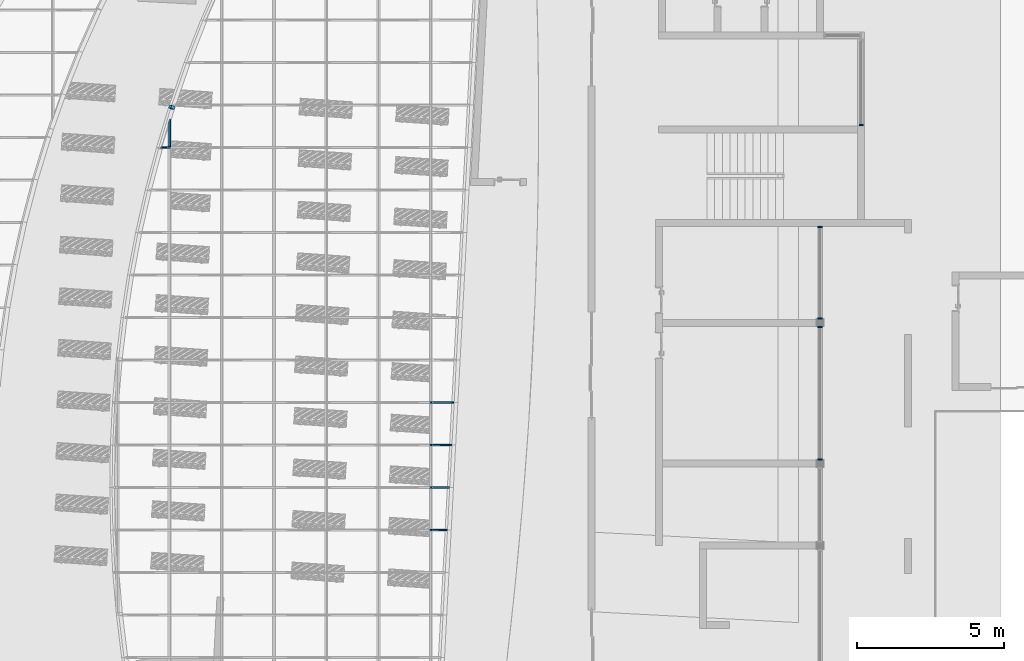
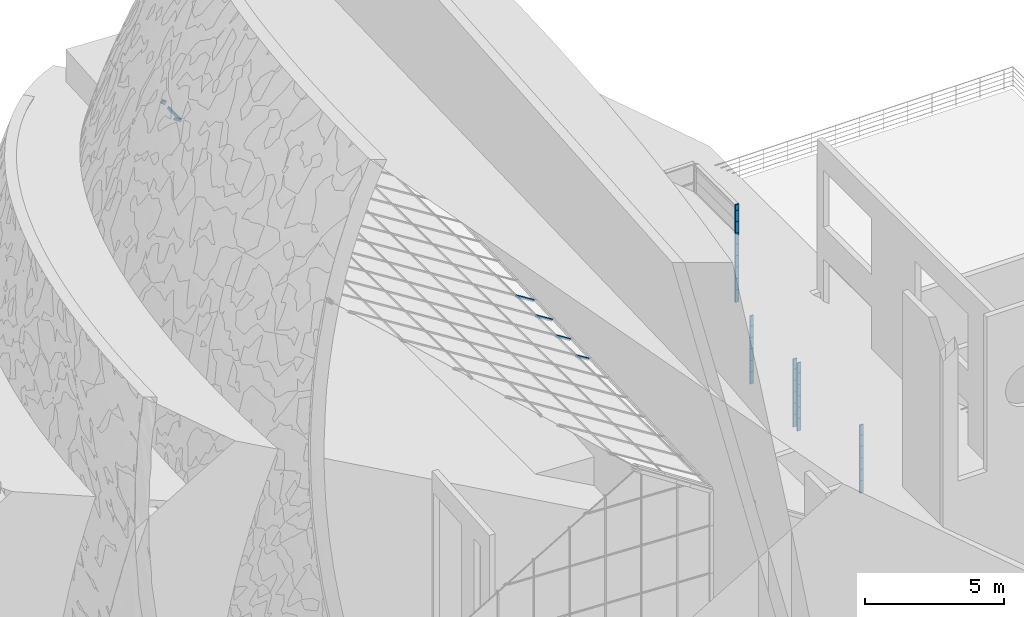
# One storey, part 29 of 82: 40 members, 4 elements without a shape of their own.
"""IFC2X3 building model written with IfcOpenShell, lengths in millimetres."""

from ifc_helpers import new_model, entity, si_unit, converted_unit, derived_unit, direction, frame, frame_2d, origin, origin_2d_with_axis, place, context, subcontext, project, spatial, polyline, rectangle, extrude, clip, halfspace, bounded_halfspace, source, transform, mapped, material, type_object, type_shapes, element, aggregate, save


model = new_model("IFC2X3")

# Units and contexts
model_context = context("Model", 3, precision=0.01, world=origin(), true_north=direction((6.12303176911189e-17, 1.0)))
body_context = subcontext(model_context, "Body", "Model", "MODEL_VIEW")
ifc_project = project(units=[si_unit("LENGTHUNIT", "METRE", prefix="MILLI"), si_unit("AREAUNIT", "SQUARE_METRE"), si_unit("VOLUMEUNIT", "CUBIC_METRE"), converted_unit("PLANEANGLEUNIT", "DEGREE", entity("IfcRatioMeasure", 0.0174532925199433), si_unit("PLANEANGLEUNIT", "RADIAN"), dimensions=[0, 0, 0, 0, 0, 0, 0]), si_unit("MASSUNIT", "GRAM", prefix="KILO"), derived_unit("MASSDENSITYUNIT", [(si_unit("MASSUNIT", "GRAM", prefix="KILO"), 1), (si_unit("LENGTHUNIT", "METRE"), -3)]), si_unit("TIMEUNIT", "SECOND"), si_unit("FREQUENCYUNIT", "HERTZ"), si_unit("THERMODYNAMICTEMPERATUREUNIT", "DEGREE_CELSIUS"), derived_unit("THERMALTRANSMITTANCEUNIT", [(si_unit("MASSUNIT", "GRAM", prefix="KILO"), 1), (si_unit("THERMODYNAMICTEMPERATUREUNIT", "KELVIN"), -1), (si_unit("TIMEUNIT", "SECOND"), -3)]), derived_unit("VOLUMETRICFLOWRATEUNIT", [(si_unit("LENGTHUNIT", "METRE"), 3), (si_unit("TIMEUNIT", "SECOND"), -1)]), si_unit("ELECTRICCURRENTUNIT", "AMPERE"), si_unit("ELECTRICVOLTAGEUNIT", "VOLT"), si_unit("POWERUNIT", "WATT"), si_unit("FORCEUNIT", "NEWTON", prefix="KILO"), si_unit("ILLUMINANCEUNIT", "LUX"), si_unit("LUMINOUSFLUXUNIT", "LUMEN"), si_unit("LUMINOUSINTENSITYUNIT", "CANDELA"), derived_unit("USERDEFINED", [(si_unit("MASSUNIT", "GRAM", prefix="KILO"), -1), (si_unit("LENGTHUNIT", "METRE"), -2), (si_unit("TIMEUNIT", "SECOND"), 3), (si_unit("LUMINOUSFLUXUNIT", "LUMEN"), 1)]), derived_unit("LINEARVELOCITYUNIT", [(si_unit("LENGTHUNIT", "METRE"), 1), (si_unit("TIMEUNIT", "SECOND"), -1)]), si_unit("PRESSUREUNIT", "PASCAL"), derived_unit("USERDEFINED", [(si_unit("LENGTHUNIT", "METRE"), -2), (si_unit("MASSUNIT", "GRAM", prefix="KILO"), 1), (si_unit("TIMEUNIT", "SECOND"), -2)])], contexts=[model_context])

# Site, building, storey
site_placement = place(None, origin())
site = spatial("IfcSite", under=ifc_project, at=site_placement, Name="表面", CompositionType="ELEMENT")
building_placement = place(site_placement, origin())
building = spatial("IfcBuilding", under=site, at=building_placement, CompositionType="ELEMENT")
storey_placement = place(building_placement, origin())
storey = spatial("IfcBuildingStorey", under=building, at=storey_placement, Name="1F", CompositionType="ELEMENT", Elevation=0.0)

# Curtain wall, member
curtain_wall_type_1 = type_object("IfcCurtainWallType", Name="幕墙:幕墙 1", PredefinedType="NOTDEFINED")
curtain_wall_1_placement = place(storey_placement, origin())
curtain_wall_1 = element("IfcCurtainWall", 1, at=curtain_wall_1_placement, inside=storey, type_object=curtain_wall_type_1, Name="幕墙:幕墙 1", ObjectType="幕墙:幕墙 1")
ifc_material_1 = material(Name="金属 - 铝")
member_type_1 = type_object("IfcMemberType", Name="50 x 150mm", PredefinedType="MEMBER")
shared_shape_1 = source(origin(), body_context, "Body", "SweptSolid", [
    extrude(rectangle(XDim=150.0, YDim=50.0, at=origin_2d_with_axis()), frame((-25.0, 0.0, -550.0), z_axis=(0.0, 0.0, 1.0), x_axis=(0.0, -1.0, 0.0)), (0.0, 0.0, 1.0), 550.0),
])
type_shapes(member_type_1, [shared_shape_1])
member_1_placement = place(storey_placement, frame((-6630.24991264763, -11996.868426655, 0.0), z_axis=(0.0, 0.0, -1.0), x_axis=(0.0, -1.0, 0.0)))
member_1 = element("IfcMember", 2, at=member_1_placement, type_object=member_type_1, material=ifc_material_1, Name="矩形竖梃:50 x 150mm", ObjectType="50 x 150mm", context=body_context, shape_type="MappedRepresentation", body=[
    mapped(shared_shape_1, transform((0.0, 0.0, 0.0), scale=1.0)),
])

curtain_wall_2_placement = place(storey_placement, origin())
curtain_wall_2 = element("IfcCurtainWall", 3, at=curtain_wall_2_placement, inside=storey, type_object=curtain_wall_type_1, Name="幕墙:幕墙 1", ObjectType="幕墙:幕墙 1")
member_2_placement = place(storey_placement, frame((-6630.24991264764, -16796.868426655, 0.0), z_axis=(0.0, 0.0, -1.0), x_axis=(0.0, -1.0, 0.0)))
member_2 = element("IfcMember", 4, at=member_2_placement, type_object=member_type_1, material=ifc_material_1, Name="矩形竖梃:50 x 150mm", ObjectType="50 x 150mm", context=body_context, shape_type="MappedRepresentation", body=[
    mapped(shared_shape_1, transform((0.0, 0.0, 0.0), scale=1.0)),
])

curtain_wall_3_placement = place(storey_placement, origin())
curtain_wall_3 = element("IfcCurtainWall", 5, at=curtain_wall_3_placement, inside=storey, type_object=curtain_wall_type_1, Name="幕墙:幕墙 1", ObjectType="幕墙:幕墙 1")
member_3_placement = place(storey_placement, frame((-5230.24991264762, -5396.868426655, 1000.0), z_axis=(0.0, 0.0, -1.0), x_axis=(0.0, -1.0, 0.0)))
member_3 = element("IfcMember", 6, at=member_3_placement, type_object=member_type_1, material=ifc_material_1, Name="矩形竖梃:50 x 150mm", ObjectType="50 x 150mm", context=body_context, shape_type="MappedRepresentation", body=[
    mapped(shared_shape_1, transform((0.0, 0.0, 0.0), scale=1.0)),
])

# Member
member_type_2 = type_object("IfcMemberType", Name="50 x 150mm", PredefinedType="MEMBER")
shared_shape_2 = source(origin(), body_context, "Body", "SweptSolid", [
    extrude(rectangle(XDim=150.0, YDim=50.0, at=origin_2d_with_axis()), frame((-25.0, 0.0, -450.0), z_axis=(0.0, 0.0, 1.0), x_axis=(0.0, -1.0, 0.0)), (0.0, 0.0, 1.0), 450.000000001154),
])
type_shapes(member_type_2, [shared_shape_2])
member_4_placement = place(storey_placement, frame((-6630.24991264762, -8827.84591297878, 3000.0), z_axis=(0.0, 0.0, 1.0), x_axis=(0.0, 1.0, 0.0)))
member_4 = element("IfcMember", 7, at=member_4_placement, type_object=member_type_2, material=ifc_material_1, Name="矩形竖梃:50 x 150mm", ObjectType="50 x 150mm", context=body_context, shape_type="MappedRepresentation", body=[
    mapped(shared_shape_2, transform((0.0, 0.0, 0.0), scale=1.0)),
])

member_5_placement = place(storey_placement, frame((-6630.24991264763, -12236.868426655, 3000.0), z_axis=(0.0, 0.0, 1.0), x_axis=(0.0, 1.0, 0.0)))
member_5 = element("IfcMember", 8, at=member_5_placement, type_object=member_type_2, material=ifc_material_1, Name="矩形竖梃:50 x 150mm", ObjectType="50 x 150mm", context=body_context, shape_type="MappedRepresentation", body=[
    mapped(shared_shape_2, transform((0.0, 0.0, 0.0), scale=1.0)),
])

member_type_3 = type_object("IfcMemberType", Name="50 x 150mm", PredefinedType="MEMBER")
shared_shape_3 = source(origin(), body_context, "Body", "SweptSolid", [
    extrude(rectangle(XDim=150.0, YDim=50.0, at=origin_2d_with_axis()), frame((-25.0, 0.0, -500.0), z_axis=(0.0, 0.0, 1.0), x_axis=(0.0, -1.0, 0.0)), (0.0, 0.0, 1.0), 500.0),
])
type_shapes(member_type_3, [shared_shape_3])
member_6_placement = place(storey_placement, frame((-6630.24991264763, -11996.868426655, 550.0), z_axis=(0.0, 0.0, -1.0), x_axis=(0.0, -1.0, 0.0)))
member_6 = element("IfcMember", 9, at=member_6_placement, type_object=member_type_3, material=ifc_material_1, Name="矩形竖梃:50 x 150mm", ObjectType="50 x 150mm", context=body_context, shape_type="MappedRepresentation", body=[
    mapped(shared_shape_3, transform((0.0, 0.0, 0.0), scale=1.0)),
])

member_7_placement = place(storey_placement, frame((-6630.24991264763, -11996.868426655, 1050.0), z_axis=(0.0, 0.0, -1.0), x_axis=(0.0, -1.0, 0.0)))
member_7 = element("IfcMember", 10, at=member_7_placement, type_object=member_type_3, material=ifc_material_1, Name="矩形竖梃:50 x 150mm", ObjectType="50 x 150mm", context=body_context, shape_type="MappedRepresentation", body=[
    mapped(shared_shape_3, transform((0.0, 0.0, 0.0), scale=1.0)),
])

member_8_placement = place(storey_placement, frame((-6630.24991264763, -11996.868426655, 1550.0), z_axis=(0.0, 0.0, -1.0), x_axis=(0.0, -1.0, 0.0)))
member_8 = element("IfcMember", 11, at=member_8_placement, type_object=member_type_3, material=ifc_material_1, Name="矩形竖梃:50 x 150mm", ObjectType="50 x 150mm", context=body_context, shape_type="MappedRepresentation", body=[
    mapped(shared_shape_3, transform((0.0, 0.0, 0.0), scale=1.0)),
])

member_9_placement = place(storey_placement, frame((-6630.24991264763, -11996.868426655, 2050.0), z_axis=(0.0, 0.0, -1.0), x_axis=(0.0, -1.0, 0.0)))
member_9 = element("IfcMember", 12, at=member_9_placement, type_object=member_type_3, material=ifc_material_1, Name="矩形竖梃:50 x 150mm", ObjectType="50 x 150mm", context=body_context, shape_type="MappedRepresentation", body=[
    mapped(shared_shape_3, transform((0.0, 0.0, 0.0), scale=1.0)),
])

member_10_placement = place(storey_placement, frame((-6630.24991264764, -16796.868426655, 550.0), z_axis=(0.0, 0.0, -1.0), x_axis=(0.0, -1.0, 0.0)))
member_10 = element("IfcMember", 13, at=member_10_placement, type_object=member_type_3, material=ifc_material_1, Name="矩形竖梃:50 x 150mm", ObjectType="50 x 150mm", context=body_context, shape_type="MappedRepresentation", body=[
    mapped(shared_shape_3, transform((0.0, 0.0, 0.0), scale=1.0)),
])

member_11_placement = place(storey_placement, frame((-6630.24991264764, -16796.868426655, 1050.0), z_axis=(0.0, 0.0, -1.0), x_axis=(0.0, -1.0, 0.0)))
member_11 = element("IfcMember", 14, at=member_11_placement, type_object=member_type_3, material=ifc_material_1, Name="矩形竖梃:50 x 150mm", ObjectType="50 x 150mm", context=body_context, shape_type="MappedRepresentation", body=[
    mapped(shared_shape_3, transform((0.0, 0.0, 0.0), scale=1.0)),
])

member_12_placement = place(storey_placement, frame((-6630.24991264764, -16796.868426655, 1550.0), z_axis=(0.0, 0.0, -1.0), x_axis=(0.0, -1.0, 0.0)))
member_12 = element("IfcMember", 15, at=member_12_placement, type_object=member_type_3, material=ifc_material_1, Name="矩形竖梃:50 x 150mm", ObjectType="50 x 150mm", context=body_context, shape_type="MappedRepresentation", body=[
    mapped(shared_shape_3, transform((0.0, 0.0, 0.0), scale=1.0)),
])

member_13_placement = place(storey_placement, frame((-6630.24991264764, -16796.868426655, 2050.0), z_axis=(0.0, 0.0, -1.0), x_axis=(0.0, -1.0, 0.0)))
member_13 = element("IfcMember", 16, at=member_13_placement, type_object=member_type_3, material=ifc_material_1, Name="矩形竖梃:50 x 150mm", ObjectType="50 x 150mm", context=body_context, shape_type="MappedRepresentation", body=[
    mapped(shared_shape_3, transform((0.0, 0.0, 0.0), scale=1.0)),
])

member_14_placement = place(storey_placement, frame((-5230.24991264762, -5396.868426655, 1550.0), z_axis=(0.0, 0.0, -1.0), x_axis=(0.0, -1.0, 0.0)))
member_14 = element("IfcMember", 17, at=member_14_placement, type_object=member_type_3, material=ifc_material_1, Name="矩形竖梃:50 x 150mm", ObjectType="50 x 150mm", context=body_context, shape_type="MappedRepresentation", body=[
    mapped(shared_shape_3, transform((0.0, 0.0, 0.0), scale=1.0)),
])

member_15_placement = place(storey_placement, frame((-5230.24991264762, -5396.868426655, 2050.0), z_axis=(0.0, 0.0, -1.0), x_axis=(0.0, -1.0, 0.0)))
member_15 = element("IfcMember", 18, at=member_15_placement, type_object=member_type_3, material=ifc_material_1, Name="矩形竖梃:50 x 150mm", ObjectType="50 x 150mm", context=body_context, shape_type="MappedRepresentation", body=[
    mapped(shared_shape_3, transform((0.0, 0.0, 0.0), scale=1.0)),
])

member_16_placement = place(storey_placement, frame((-5230.24991264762, -5396.868426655, 2550.0), z_axis=(0.0, 0.0, -1.0), x_axis=(0.0, -1.0, 0.0)))
member_16 = element("IfcMember", 19, at=member_16_placement, type_object=member_type_3, material=ifc_material_1, Name="矩形竖梃:50 x 150mm", ObjectType="50 x 150mm", context=body_context, shape_type="MappedRepresentation", body=[
    mapped(shared_shape_3, transform((0.0, 0.0, 0.0), scale=1.0)),
])

member_17_placement = place(storey_placement, frame((-5230.24991264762, -5396.868426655, 3050.0), z_axis=(0.0, 0.0, -1.0), x_axis=(0.0, -1.0, 0.0)))
member_17 = element("IfcMember", 20, at=member_17_placement, type_object=member_type_3, material=ifc_material_1, Name="矩形竖梃:50 x 150mm", ObjectType="50 x 150mm", context=body_context, shape_type="MappedRepresentation", body=[
    mapped(shared_shape_3, transform((0.0, 0.0, 0.0), scale=1.0)),
])

member_18_placement = place(storey_placement, frame((-5230.24991264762, -5396.868426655, 3550.0), z_axis=(0.0, 0.0, -1.0), x_axis=(0.0, -1.0, 0.0)))
member_18 = element("IfcMember", 21, at=member_18_placement, type_object=member_type_3, material=ifc_material_1, Name="矩形竖梃:50 x 150mm", ObjectType="50 x 150mm", context=body_context, shape_type="MappedRepresentation", body=[
    mapped(shared_shape_3, transform((0.0, 0.0, 0.0), scale=1.0)),
])

member_19_placement = place(storey_placement, frame((-5230.24991264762, -5396.868426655, 4050.0), z_axis=(0.0, 0.0, -1.0), x_axis=(0.0, -1.0, 0.0)))
member_19 = element("IfcMember", 22, at=member_19_placement, type_object=member_type_3, material=ifc_material_1, Name="矩形竖梃:50 x 150mm", ObjectType="50 x 150mm", context=body_context, shape_type="MappedRepresentation", body=[
    mapped(shared_shape_3, transform((0.0, 0.0, 0.0), scale=1.0)),
])

member_20_placement = place(storey_placement, frame((-5230.24991264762, -5396.868426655, 4550.0), z_axis=(0.0, 0.0, -1.0), x_axis=(0.0, -1.0, 0.0)))
member_20 = element("IfcMember", 23, at=member_20_placement, type_object=member_type_3, material=ifc_material_1, Name="矩形竖梃:50 x 150mm", ObjectType="50 x 150mm", context=body_context, shape_type="MappedRepresentation", body=[
    mapped(shared_shape_3, transform((0.0, 0.0, 0.0), scale=1.0)),
])

member_type_4 = type_object("IfcMemberType", Name="50 x 150mm", PredefinedType="MEMBER")
shared_shape_4 = source(origin(), body_context, "Body", "SweptSolid", [
    extrude(rectangle(XDim=150.0, YDim=50.0, at=origin_2d_with_axis()), frame((-25.0, 0.0, -550.0), z_axis=(0.0, 0.0, 1.0), x_axis=(0.0, -1.0, 0.0)), (0.0, 0.0, 1.0), 550.0),
])
type_shapes(member_type_4, [shared_shape_4])
member_21_placement = place(storey_placement, frame((-6630.24991264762, -8827.84591297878, 550.0), z_axis=(0.0, 0.0, 1.0), x_axis=(0.0, 1.0, 0.0)))
member_21 = element("IfcMember", 24, at=member_21_placement, type_object=member_type_4, material=ifc_material_1, Name="矩形竖梃:50 x 150mm", ObjectType="50 x 150mm", context=body_context, shape_type="MappedRepresentation", body=[
    mapped(shared_shape_4, transform((0.0, 0.0, 0.0), scale=1.0)),
])

member_22_placement = place(storey_placement, frame((-6630.24991264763, -12236.868426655, 550.0), z_axis=(0.0, 0.0, 1.0), x_axis=(0.0, 1.0, 0.0)))
member_22 = element("IfcMember", 25, at=member_22_placement, type_object=member_type_4, material=ifc_material_1, Name="矩形竖梃:50 x 150mm", ObjectType="50 x 150mm", context=body_context, shape_type="MappedRepresentation", body=[
    mapped(shared_shape_4, transform((0.0, 0.0, 0.0), scale=1.0)),
])

member_type_5 = type_object("IfcMemberType", Name="50 x 150mm", PredefinedType="MEMBER")
shared_shape_5 = source(origin(), body_context, "Body", "SweptSolid", [
    extrude(rectangle(XDim=150.0, YDim=50.0, at=origin_2d_with_axis()), frame((-25.0, 0.0, -500.0), z_axis=(0.0, 0.0, 1.0), x_axis=(0.0, -1.0, 0.0)), (0.0, 0.0, 1.0), 500.0),
])
type_shapes(member_type_5, [shared_shape_5])
member_23_placement = place(storey_placement, frame((-6630.24991264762, -8827.84591297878, 1050.0), z_axis=(0.0, 0.0, 1.0), x_axis=(0.0, 1.0, 0.0)))
member_23 = element("IfcMember", 26, at=member_23_placement, type_object=member_type_5, material=ifc_material_1, Name="矩形竖梃:50 x 150mm", ObjectType="50 x 150mm", context=body_context, shape_type="MappedRepresentation", body=[
    mapped(shared_shape_5, transform((0.0, 0.0, 0.0), scale=1.0)),
])

member_24_placement = place(storey_placement, frame((-6630.24991264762, -8827.84591297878, 1550.0), z_axis=(0.0, 0.0, 1.0), x_axis=(0.0, 1.0, 0.0)))
member_24 = element("IfcMember", 27, at=member_24_placement, type_object=member_type_5, material=ifc_material_1, Name="矩形竖梃:50 x 150mm", ObjectType="50 x 150mm", context=body_context, shape_type="MappedRepresentation", body=[
    mapped(shared_shape_5, transform((0.0, 0.0, 0.0), scale=1.0)),
])

member_25_placement = place(storey_placement, frame((-6630.24991264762, -8827.84591297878, 2050.0), z_axis=(0.0, 0.0, 1.0), x_axis=(0.0, 1.0, 0.0)))
member_25 = element("IfcMember", 28, at=member_25_placement, type_object=member_type_5, material=ifc_material_1, Name="矩形竖梃:50 x 150mm", ObjectType="50 x 150mm", context=body_context, shape_type="MappedRepresentation", body=[
    mapped(shared_shape_5, transform((0.0, 0.0, 0.0), scale=1.0)),
])

member_26_placement = place(storey_placement, frame((-6630.24991264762, -8827.84591297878, 2550.0), z_axis=(0.0, 0.0, 1.0), x_axis=(0.0, 1.0, 0.0)))
member_26 = element("IfcMember", 29, at=member_26_placement, type_object=member_type_5, material=ifc_material_1, Name="矩形竖梃:50 x 150mm", ObjectType="50 x 150mm", context=body_context, shape_type="MappedRepresentation", body=[
    mapped(shared_shape_5, transform((0.0, 0.0, 0.0), scale=1.0)),
])

member_27_placement = place(storey_placement, frame((-6630.24991264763, -12236.868426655, 1050.0), z_axis=(0.0, 0.0, 1.0), x_axis=(0.0, 1.0, 0.0)))
member_27 = element("IfcMember", 30, at=member_27_placement, type_object=member_type_5, material=ifc_material_1, Name="矩形竖梃:50 x 150mm", ObjectType="50 x 150mm", context=body_context, shape_type="MappedRepresentation", body=[
    mapped(shared_shape_5, transform((0.0, 0.0, 0.0), scale=1.0)),
])

member_28_placement = place(storey_placement, frame((-6630.24991264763, -12236.868426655, 1550.0), z_axis=(0.0, 0.0, 1.0), x_axis=(0.0, 1.0, 0.0)))
member_28 = element("IfcMember", 31, at=member_28_placement, type_object=member_type_5, material=ifc_material_1, Name="矩形竖梃:50 x 150mm", ObjectType="50 x 150mm", context=body_context, shape_type="MappedRepresentation", body=[
    mapped(shared_shape_5, transform((0.0, 0.0, 0.0), scale=1.0)),
])

member_29_placement = place(storey_placement, frame((-6630.24991264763, -12236.868426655, 2050.0), z_axis=(0.0, 0.0, 1.0), x_axis=(0.0, 1.0, 0.0)))
member_29 = element("IfcMember", 32, at=member_29_placement, type_object=member_type_5, material=ifc_material_1, Name="矩形竖梃:50 x 150mm", ObjectType="50 x 150mm", context=body_context, shape_type="MappedRepresentation", body=[
    mapped(shared_shape_5, transform((0.0, 0.0, 0.0), scale=1.0)),
])

member_30_placement = place(storey_placement, frame((-6630.24991264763, -12236.868426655, 2550.0), z_axis=(0.0, 0.0, 1.0), x_axis=(0.0, 1.0, 0.0)))
member_30 = element("IfcMember", 33, at=member_30_placement, type_object=member_type_5, material=ifc_material_1, Name="矩形竖梃:50 x 150mm", ObjectType="50 x 150mm", context=body_context, shape_type="MappedRepresentation", body=[
    mapped(shared_shape_5, transform((0.0, 0.0, 0.0), scale=1.0)),
])

member_type_6 = type_object("IfcMemberType", Name="50 x 150mm", PredefinedType="MEMBER")
shared_shape_6 = source(origin(), body_context, "Body", "SweptSolid", [
    extrude(rectangle(XDim=150.0, YDim=50.0, at=origin_2d_with_axis()), frame((-25.0, 0.0, -450.0), z_axis=(0.0, 0.0, 1.0), x_axis=(0.0, -1.0, 0.0)), (0.0, 0.0, 1.0), 450.000000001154),
])
type_shapes(member_type_6, [shared_shape_6])
member_31_placement = place(storey_placement, frame((-6630.24991264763, -11996.868426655, 2550.0), z_axis=(0.0, 0.0, -1.0), x_axis=(0.0, -1.0, 0.0)))
member_31 = element("IfcMember", 34, at=member_31_placement, type_object=member_type_6, material=ifc_material_1, Name="矩形竖梃:50 x 150mm", ObjectType="50 x 150mm", context=body_context, shape_type="MappedRepresentation", body=[
    mapped(shared_shape_6, transform((0.0, 0.0, 0.0), scale=1.0)),
])

aggregate(curtain_wall_1, [member_1, member_4, member_6, member_21, member_23, member_24, member_25, member_26, member_7, member_8, member_9, member_31])

member_32_placement = place(storey_placement, frame((-6630.24991264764, -16796.868426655, 2550.0), z_axis=(0.0, 0.0, -1.0), x_axis=(0.0, -1.0, 0.0)))
member_32 = element("IfcMember", 35, at=member_32_placement, type_object=member_type_6, material=ifc_material_1, Name="矩形竖梃:50 x 150mm", ObjectType="50 x 150mm", context=body_context, shape_type="MappedRepresentation", body=[
    mapped(shared_shape_6, transform((0.0, 0.0, 0.0), scale=1.0)),
])

aggregate(curtain_wall_2, [member_2, member_5, member_10, member_22, member_27, member_28, member_29, member_30, member_11, member_12, member_13, member_32])

member_type_7 = type_object("IfcMemberType", Name="50 x 150mm", PredefinedType="MEMBER")
shared_shape_7 = source(origin(), body_context, "Body", "SweptSolid", [
    extrude(rectangle(XDim=150.0, YDim=50.0, at=origin_2d_with_axis()), frame((-25.0, 0.0, -250.0), z_axis=(0.0, 0.0, 1.0), x_axis=(0.0, -1.0, 0.0)), (0.0, 0.0, 1.0), 250.000000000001),
])
type_shapes(member_type_7, [shared_shape_7])
member_33_placement = place(storey_placement, frame((-5230.24991264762, -5396.868426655, 5050.0), z_axis=(0.0, 0.0, -1.0), x_axis=(0.0, -1.0, 0.0)))
member_33 = element("IfcMember", 36, at=member_33_placement, type_object=member_type_7, material=ifc_material_1, Name="矩形竖梃:50 x 150mm", ObjectType="50 x 150mm", context=body_context, shape_type="MappedRepresentation", body=[
    mapped(shared_shape_7, transform((0.0, 0.0, 0.0), scale=1.0)),
])

aggregate(curtain_wall_3, [member_3, member_14, member_15, member_16, member_17, member_18, member_19, member_20, member_33])

# Curtain wall, members
curtain_wall_type_2 = type_object("IfcCurtainWallType", Name="幕墙系统:1450 x 2100mm", PredefinedType="NOTDEFINED")
curtain_wall_4_placement = place(storey_placement, origin())
curtain_wall_4 = element("IfcCurtainWall", 37, at=curtain_wall_4_placement, inside=storey, type_object=curtain_wall_type_2, Name="幕墙系统:1450 x 2100mm", ObjectType="幕墙系统:1450 x 2100mm")
ifc_material_2 = material(Name="木质 - 木材")
member_type_8 = type_object("IfcMemberType", Name="200 x 150mm", PredefinedType="MEMBER")
shared_shape_8 = source(origin(), body_context, "Body", "SweptSolid", [
    extrude(rectangle(XDim=150.0, YDim=150.0, at=origin_2d_with_axis()), frame((-75.0, 0.0, -103.600343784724), z_axis=(0.0, 0.0, 1.0), x_axis=(0.0, -1.0, 0.0)), (0.0, 0.0, 1.0), 103.600343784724),
])
type_shapes(member_type_8, [shared_shape_8])
placement = place(building_placement, frame((0.0, 0.0, 9000.0)))
member_34_placement = place(placement, frame((-28792.288442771, -4688.90315351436, 8687.6155504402), z_axis=(0.302278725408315, 0.934318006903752, -0.18888471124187), x_axis=(-0.792346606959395, 0.356440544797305, 0.495113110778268)))
member_34 = element("IfcMember", 38, at=member_34_placement, type_object=member_type_8, material=ifc_material_2, Name="矩形竖梃:200 x 150mm", ObjectType="200 x 150mm", context=body_context, shape_type="MappedRepresentation", body=[
    mapped(shared_shape_8, transform((0.0, 0.0, 0.0), scale=1.0)),
])
member_type_9 = type_object("IfcMemberType", Name="50 x 100mm", PredefinedType="MEMBER")
shared_shape_9 = source(origin(), body_context, "Body", "Clipping", [
    clip(extrude(rectangle(XDim=100.0, YDim=50.0, at=origin_2d_with_axis()), frame((0.0, 0.0, -1328.20433328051), z_axis=(0.0, 0.0, 1.0), x_axis=(0.0, -1.0, 0.0)), (0.0, 0.0, 1.0), 952.407319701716), halfspace(frame((-140.715835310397, 75.0, -51.9768625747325), z_axis=(0.941681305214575, 0.0, 0.336506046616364), x_axis=(0.336506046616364, 0.0, -0.941681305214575)), False)),
])
type_shapes(member_type_9, [shared_shape_9])
member_35_placement = place(placement, frame((-28823.6046226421, -4785.69882023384, 8707.18407146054), z_axis=(0.0, 1.0, 0.0), x_axis=(-0.848048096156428, 0.0, 0.529919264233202)))
member_35 = element("IfcMember", 39, at=member_35_placement, type_object=member_type_9, material=ifc_material_1, Name="矩形竖梃:50 x 100mm", ObjectType="50 x 100mm", context=body_context, shape_type="MappedRepresentation", body=[
    mapped(shared_shape_9, transform((0.0, 0.0, 0.0), scale=1.0)),
])
member_type_10 = type_object("IfcMemberType", Name="50 x 100mm", PredefinedType="MEMBER")
shared_shape_10 = source(origin(), body_context, "Body", "Clipping", [
    clip(extrude(rectangle(XDim=100.0, YDim=50.0, at=origin_2d_with_axis()), frame((0.0, 0.0, -483.562154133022), z_axis=(0.0, 0.0, 1.0), x_axis=(0.0, -1.0, 0.0)), (0.0, 0.0, 1.0), 333.206244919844), halfspace(frame((-1302.72842628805, 75.0, -624.814349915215), z_axis=(-0.33650604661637, 0.0, 0.941681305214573), x_axis=(0.941681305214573, 0.0, 0.33650604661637)), False)),
])
type_shapes(member_type_10, [shared_shape_10])
member_36_placement = place(placement, frame((-29233.6885868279, -6138.90315351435, 8963.43297238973), z_axis=(-0.848048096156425, 0.0, 0.529919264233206), x_axis=(0.0, -1.0, 0.0)))
member_36 = element("IfcMember", 40, at=member_36_placement, type_object=member_type_10, material=ifc_material_1, Name="矩形竖梃:50 x 100mm", ObjectType="50 x 100mm", context=body_context, shape_type="MappedRepresentation", body=[
    mapped(shared_shape_10, transform((0.0, 0.0, 0.0), scale=1.0)),
])
member_type_11 = type_object("IfcMemberType", Name="50 x 100mm", PredefinedType="MEMBER")
shared_shape_11 = source(origin(), body_context, "Body", "Clipping", [
    clip(clip(extrude(rectangle(XDim=100.0, YDim=50.0, at=origin_2d_with_axis()), frame((0.0, 0.0, -900.140557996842), z_axis=(0.0, 0.0, 1.0), x_axis=(0.0, -1.0, 0.0)), (0.0, 0.0, 1.0), 900.140557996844), bounded_halfspace(frame((-9.25206819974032, 75.0, -899.167365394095), z_axis=(0.0616804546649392, 0.0, -0.998095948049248), x_axis=(-0.998095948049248, 0.0, -0.0616804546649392)), False, frame((0.0, 0.0, -900.140557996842), z_axis=(0.0, 0.0, 1.0), x_axis=(0.0, -1.0, 0.0)), polyline([(50.0, -9.2520681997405), (50.0, -25.0), (-50.0, -25.0), (-50.0, -9.25206819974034), (50.0, -9.2520681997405)]))), bounded_halfspace(frame((1440.74793180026, 75.0, -809.560089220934), z_axis=(0.06168045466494, 0.0, -0.998095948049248), x_axis=(-0.998095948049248, 0.0, -0.06168045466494)), False, frame((0.0, 0.0, -900.140557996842), z_axis=(0.0, 0.0, 1.0), x_axis=(0.0, -1.0, 0.0)), polyline([(-50.0, 25.0), (50.0, 25.0), (50.0, -9.25206819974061), (-50.0, -9.2520681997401), (-50.0, 25.0)]))),
])
type_shapes(member_type_11, [shared_shape_11])
member_37_placement = place(placement, frame((-19919.0996129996, -14838.9031535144, 3143.03179701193), z_axis=(-0.848048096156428, 0.0, 0.529919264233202), x_axis=(0.0, -1.0, 0.0)))
member_37 = element("IfcMember", 41, at=member_37_placement, type_object=member_type_11, material=ifc_material_1, Name="矩形竖梃:50 x 100mm", ObjectType="50 x 100mm", context=body_context, shape_type="MappedRepresentation", body=[
    mapped(shared_shape_11, transform((0.0, 0.0, 0.0), scale=1.0)),
])
member_type_12 = type_object("IfcMemberType", Name="50 x 100mm", PredefinedType="MEMBER")
shared_shape_12 = source(origin(), body_context, "Body", "Clipping", [
    clip(clip(extrude(rectangle(XDim=100.0, YDim=50.0, at=origin_2d_with_axis()), frame((0.0, 0.0, -810.533281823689), z_axis=(0.0, 0.0, 1.0), x_axis=(0.0, -1.0, 0.0)), (0.0, 0.0, 1.0), 810.533281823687), bounded_halfspace(frame((-9.25206819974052, 75.0, -809.560089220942), z_axis=(0.06168045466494, 0.0, -0.998095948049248), x_axis=(-0.998095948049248, 0.0, -0.06168045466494)), False, frame((0.0, 0.0, -810.533281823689), z_axis=(0.0, 0.0, 1.0), x_axis=(0.0, -1.0, 0.0)), polyline([(50.0, -9.25206819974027), (50.0, -25.0), (-50.0, -25.0), (-50.0, -9.25206819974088), (50.0, -9.25206819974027)]))), bounded_halfspace(frame((1440.74793180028, 75.0, -719.952813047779), z_axis=(0.0616804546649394, 0.0, -0.998095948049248), x_axis=(-0.998095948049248, 0.0, -0.0616804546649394)), False, frame((0.0, 0.0, -810.533281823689), z_axis=(0.0, 0.0, 1.0), x_axis=(0.0, -1.0, 0.0)), polyline([(-50.0, 25.0), (50.0, 25.0), (50.0, -9.25206819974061), (-50.0, -9.25206819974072), (-50.0, 25.0)]))),
])
type_shapes(member_type_12, [shared_shape_12])
member_38_placement = place(placement, frame((-19919.0996129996, -16288.9031535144, 3143.03179701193), z_axis=(-0.848048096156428, 0.0, 0.529919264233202), x_axis=(0.0, -1.0, 0.0)))
member_38 = element("IfcMember", 42, at=member_38_placement, type_object=member_type_12, material=ifc_material_1, Name="矩形竖梃:50 x 100mm", ObjectType="50 x 100mm", context=body_context, shape_type="MappedRepresentation", body=[
    mapped(shared_shape_12, transform((0.0, 0.0, 0.0), scale=1.0)),
])
member_type_13 = type_object("IfcMemberType", Name="50 x 100mm", PredefinedType="MEMBER")
shared_shape_13 = source(origin(), body_context, "Body", "Clipping", [
    clip(clip(extrude(rectangle(XDim=100.0, YDim=50.0, at=origin_2d_with_axis()), frame((0.0, 0.0, -720.926005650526), z_axis=(0.0, 0.0, 1.0), x_axis=(0.0, -1.0, 0.0)), (0.0, 0.0, 1.0), 720.926005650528), bounded_halfspace(frame((-9.25206819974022, 75.0, -719.952813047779), z_axis=(0.0616804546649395, 0.0, -0.998095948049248), x_axis=(-0.998095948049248, 0.0, -0.0616804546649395)), False, frame((0.0, 0.0, -720.926005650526), z_axis=(0.0, 0.0, 1.0), x_axis=(0.0, -1.0, 0.0)), polyline([(50.0, -9.25206819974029), (50.0, -25.0), (-50.0, -25.0), (-50.0, -9.25206819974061), (50.0, -9.25206819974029)]))), bounded_halfspace(frame((1440.74793180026, 75.0, -630.34553687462), z_axis=(0.0616804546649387, 0.0, -0.998095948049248), x_axis=(-0.998095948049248, 0.0, -0.0616804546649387)), False, frame((0.0, 0.0, -720.926005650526), z_axis=(0.0, 0.0, 1.0), x_axis=(0.0, -1.0, 0.0)), polyline([(-50.0, 25.0), (50.0, 25.0), (50.0, -9.25206819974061), (-50.0, -9.25206819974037), (-50.0, 25.0)]))),
])
type_shapes(member_type_13, [shared_shape_13])
member_39_placement = place(placement, frame((-19919.0996129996, -17738.9031535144, 3143.03179701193), z_axis=(-0.848048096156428, 0.0, 0.529919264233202), x_axis=(0.0, -1.0, 0.0)))
member_39 = element("IfcMember", 43, at=member_39_placement, type_object=member_type_13, material=ifc_material_1, Name="矩形竖梃:50 x 100mm", ObjectType="50 x 100mm", context=body_context, shape_type="MappedRepresentation", body=[
    mapped(shared_shape_13, transform((0.0, 0.0, 0.0), scale=1.0)),
])
member_type_14 = type_object("IfcMemberType", Name="50 x 100mm", PredefinedType="MEMBER")
shared_shape_14 = source(origin(), body_context, "Body", "Clipping", [
    clip(clip(extrude(rectangle(XDim=100.0, YDim=50.0, at=frame_2d((-3.19744231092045e-14, 0.0), x_axis=(1.0, 0.0))), frame((0.0, 0.0, -631.318729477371), z_axis=(0.0, 0.0, 1.0), x_axis=(0.0, -1.0, 0.0)), (0.0, 0.0, 1.0), 631.318729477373), bounded_halfspace(frame((-9.2520681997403, 75.0, -630.345536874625), z_axis=(0.0616804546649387, 0.0, -0.998095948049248), x_axis=(-0.998095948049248, 0.0, -0.0616804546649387)), False, frame((0.0, 0.0, -631.318729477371), z_axis=(0.0, 0.0, 1.0), x_axis=(0.0, -1.0, 0.0)), polyline([(50.0, -9.25206819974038), (50.0, -25.0), (-50.0, -25.0), (-50.0, -9.25206819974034), (50.0, -9.25206819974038)]))), bounded_halfspace(frame((1440.74793180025, 75.0, -540.738260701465), z_axis=(0.0616804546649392, 0.0, -0.998095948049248), x_axis=(-0.998095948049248, 0.0, -0.0616804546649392)), False, frame((0.0, 0.0, -631.318729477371), z_axis=(0.0, 0.0, 1.0), x_axis=(0.0, -1.0, 0.0)), polyline([(-50.0, 25.0), (50.0, 25.0), (50.0, -9.25206819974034), (-50.0, -9.25206819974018), (-50.0, 25.0)]))),
])
type_shapes(member_type_14, [shared_shape_14])
member_40_placement = place(placement, frame((-19919.0996129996, -19188.9031535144, 3143.03179701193), z_axis=(-0.848048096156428, 0.0, 0.529919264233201), x_axis=(0.0, -1.0, 0.0)))
member_40 = element("IfcMember", 44, at=member_40_placement, type_object=member_type_14, material=ifc_material_1, Name="矩形竖梃:50 x 100mm", ObjectType="50 x 100mm", context=body_context, shape_type="MappedRepresentation", body=[
    mapped(shared_shape_14, transform((0.0, 0.0, 0.0), scale=1.0)),
])
aggregate(curtain_wall_4, [member_34, member_35, member_36, member_37, member_38, member_39, member_40])

save(model, "model.ifc")
